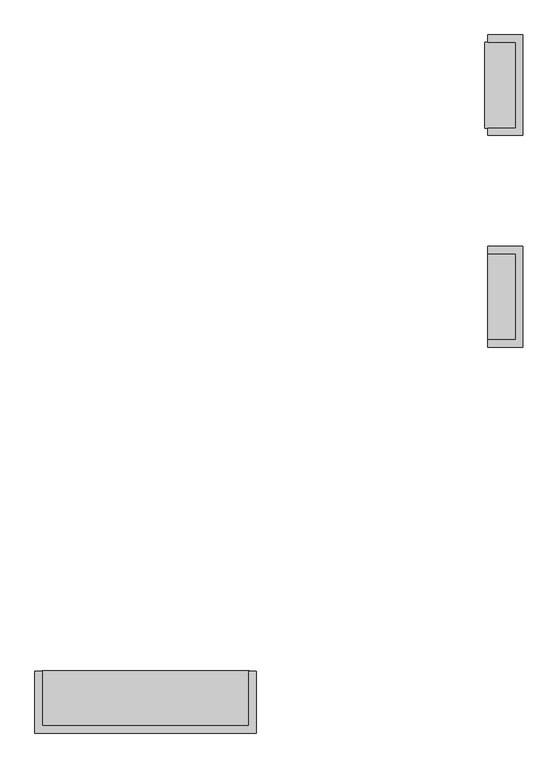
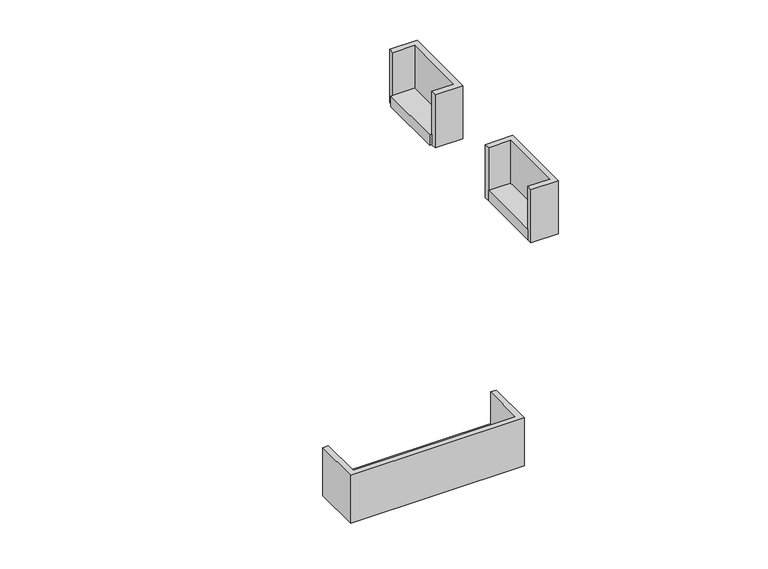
"""IFC4 building model written with IfcOpenShell, lengths in millimetres: proxy geometry, Modèles génériques 3 : Modèles génériques 3."""

from ifc_helpers import new_model, si_unit, frame, origin, place, context, project, spatial, polyline, outline, extrude, faceted_brep, source, transform, mapped, element, save


def generic_models_9b63c0fc(model_context):
    return source(origin(), model_context, "Body", "SolidModel", [
        faceted_brep([(-3106.7763197, -21046.2530701, 1949.9632281), (-3208.0263197, -21046.2530701, 1949.9632281), (-3208.0263197, -21907.6693336, 1949.9632281), (-126.5797272, -21907.6693336, 1949.9632281), (-126.5797272, -21046.2530701, 1949.9632281), (-226.5797272, -21046.2530701, 1949.9632281), (-226.5797272, -21807.6693336, 1949.9632281), (-3106.7763197, -21807.6693336, 1949.9632281), (-126.5797272, -21046.2530701, 1048.0838649), (-126.5797272, -21907.6693336, 1048.0838649), (-3208.0263197, -21907.6693336, 1048.0838649), (-3208.0263197, -21046.2530701, 1048.0838649), (-3106.7763197, -21046.2530701, 1048.0838649), (-3106.7763197, -21037.7530701, 1048.0838649), (-223.9891744, -21037.7530701, 1048.0838649), (-223.9891744, -21046.2530701, 1048.0838649), (-3106.7763197, -21046.2530701, 1349.0273663), (-3208.0263197, -21046.2530701, 1093.3082742), (-3208.0263197, -21046.2530701, 1293.3082742), (-3208.0263197, -21907.6693336, 1093.3082742), (-3208.0263197, -21907.6693336, 1293.3082742), (-223.9891744, -21046.2530701, 1349.0273663), (-226.5797272, -21046.2530701, 1349.0273663), (-226.5797272, -21807.6693336, 1349.0273663), (-3106.7763197, -21807.6693336, 1349.0273663), (-223.9891744, -21037.7530701, 1349.0273663), (-3106.7763197, -21037.7530701, 1349.0273663)], [[[0, 1, 2, 3, 4, 5, 6, 7]], [[8, 9, 10, 11, 12, 13, 14, 15]], [[1, 0, 16, 12, 11, 17, 18]], [[2, 1, 18, 17, 11, 10, 19, 20]], [[3, 2, 20, 19, 10, 9]], [[4, 3, 9, 8]], [[5, 4, 8, 15, 21, 22]], [[6, 5, 22, 23]], [[7, 6, 23, 24]], [[0, 7, 24, 16]], [[25, 26, 16, 24, 23, 22, 21]], [[26, 13, 12, 16]], [[14, 25, 21, 15]], [[14, 13, 26, 25]]]),
        extrude(outline(polyline([(3487.4682683, -13482.9158895), (3057.4682686, -13482.9158895), (3057.4682686, -12282.9158895), (3487.4682683, -12282.9158895), (3487.4682683, -13482.9158895)])), frame((0.0, 0.0, 848.0838649), z_axis=(0.0, 0.0, 1.0), x_axis=(1.0, 0.0, 0.0)), (0.0, 0.0, 1.0), 200.0),
        extrude(outline(polyline([(3487.4682683, -16428.8474044), (3097.4682686, -16428.8474044), (3097.4682686, -15228.8474044), (3487.4682683, -15228.8474044), (3487.4682683, -16428.8474044)])), frame((0.0, 0.0, 848.0838649), z_axis=(0.0, 0.0, 1.0), x_axis=(1.0, 0.0, 0.0)), (0.0, 0.0, 1.0), 200.0),
        faceted_brep([(3097.4682686, -13482.9158895, 1848.0838649), (3097.4682686, -13582.9158895, 1848.0838649), (3587.4682683, -13582.9158895, 1848.0838649), (3587.4682683, -12182.9158895, 1848.0838649), (3097.4682686, -12182.9158895, 1848.0838649), (3097.4682686, -12282.9158895, 1848.0838649), (3487.4682683, -12282.9158895, 1848.0838649), (3487.4682683, -13482.9158895, 1848.0838649), (3097.4682686, -13482.9158895, 848.0838649), (3487.4682683, -13482.9158895, 848.0838649), (3487.4682683, -12282.9158895, 848.0838649), (3097.4682686, -12282.9158895, 848.0838649), (3097.4682686, -12182.9158895, 848.0838649), (3587.4682683, -12182.9158895, 848.0838649), (3587.4682683, -13582.9158895, 848.0838649), (3097.4682686, -13582.9158895, 848.0838649), (3097.4682686, -13482.9158895, 1293.3082742), (3097.4682686, -13482.9158895, 1093.3082742), (3097.4682686, -13582.9158895, 1093.3082742), (3097.4682686, -13582.9158895, 1293.3082742), (3587.4682683, -13582.9158895, 1093.3082742), (3587.4682683, -13582.9158895, 1293.3082742), (3587.4682683, -12182.9158895, 1093.3082742), (3587.4682683, -12182.9158895, 1293.3082742), (3097.4682686, -12182.9158895, 1093.3082742), (3097.4682686, -12182.9158895, 1293.3082742), (3487.4682683, -13482.9158895, 1093.3082742), (3487.4682683, -13482.9158895, 1293.3082742)], [[[0, 1, 2, 3, 4, 5, 6, 7]], [[8, 9, 10, 11, 12, 13, 14, 15]], [[1, 0, 16, 17, 8, 15, 18, 19]], [[2, 1, 19, 18, 15, 14, 20, 21]], [[3, 2, 21, 20, 14, 13, 22, 23]], [[4, 3, 23, 22, 13, 12, 24, 25]], [[5, 4, 25, 24, 12, 11]], [[6, 5, 11, 10]], [[7, 6, 10, 9, 26, 27]], [[0, 7, 27, 26, 9, 8, 17, 16]]]),
        faceted_brep([(3097.4682686, -16428.8474044, 1848.0838649), (3097.4682686, -16530.1765718, 1848.0838649), (3587.4682683, -16530.1765718, 1848.0838649), (3587.4682683, -15128.8474044, 1848.0838649), (3097.4682686, -15128.8474044, 1848.0838649), (3097.4682686, -15228.8474044, 1848.0838649), (3487.4682683, -15228.8474044, 1848.0838649), (3487.4682683, -16428.8474044, 1848.0838649), (3097.4682686, -16428.8474044, 848.0838649), (3487.4682683, -16428.8474044, 848.0838649), (3487.4682683, -15228.8474044, 848.0838649), (3097.4682686, -15228.8474044, 848.0838649), (3097.4682686, -15128.8474044, 848.0838649), (3587.4682683, -15128.8474044, 848.0838649), (3587.4682683, -16530.1765718, 848.0838649), (3097.4682686, -16530.1765718, 848.0838649), (3097.4682686, -16530.1765718, 1068.2574531), (3097.4682686, -16530.1765718, 1268.2574531), (3587.4682683, -16530.1765718, 1069.7671566), (3587.4682683, -16530.1765718, 1269.7671566), (3587.4682683, -15128.8474044, 1093.3082742), (3587.4682683, -15128.8474044, 1293.3082742), (3097.4682686, -15128.8474044, 1093.3082742), (3097.4682686, -15128.8474044, 1293.3082742), (3097.4682686, -15228.8474044, 1093.3082742), (3097.4682686, -15228.8474044, 1293.3082742), (3487.4682683, -15228.8474044, 1093.3082742), (3487.4682683, -15228.8474044, 1293.3082742)], [[[0, 1, 2, 3, 4, 5, 6, 7]], [[8, 9, 10, 11, 12, 13, 14, 15]], [[1, 0, 8, 15, 16, 17]], [[2, 1, 17, 16, 15, 14, 18, 19]], [[3, 2, 19, 18, 14, 13, 20, 21]], [[4, 3, 21, 20, 13, 12, 22, 23]], [[5, 4, 23, 22, 12, 11, 24, 25]], [[6, 5, 25, 24, 11, 10, 26, 27]], [[7, 6, 27, 26, 10, 9]], [[0, 7, 9, 8]]]),
    ])


if __name__ == "__main__":
    model = new_model("IFC4")
    model_context = context("Model", 3, world=origin())
    ifc_project = project(units=[si_unit("LENGTHUNIT", "METRE", prefix="MILLI")], contexts=[model_context])
    site = spatial("IfcSite", under=ifc_project)
    building = spatial("IfcBuilding", under=site)
    placement = place(None, origin())
    generic_models_shape = generic_models_9b63c0fc(model_context)
    element("IfcBuildingElementProxy", 1, Name="Modèles génériques 3 : Modèles génériques 3", ObjectType="Modèles génériques 3 : Modèles génériques 3", at=placement, inside=building, context=model_context, shape_type="MappedRepresentation", body=[
        mapped(generic_models_shape, transform((0.0, 0.0, 0.0), x_axis=(1.0, 0.0, 0.0), y_axis=(0.0, 1.0, 0.0), z_axis=(0.0, 0.0, 1.0))),
    ])
    save(model, "model.ifc")
